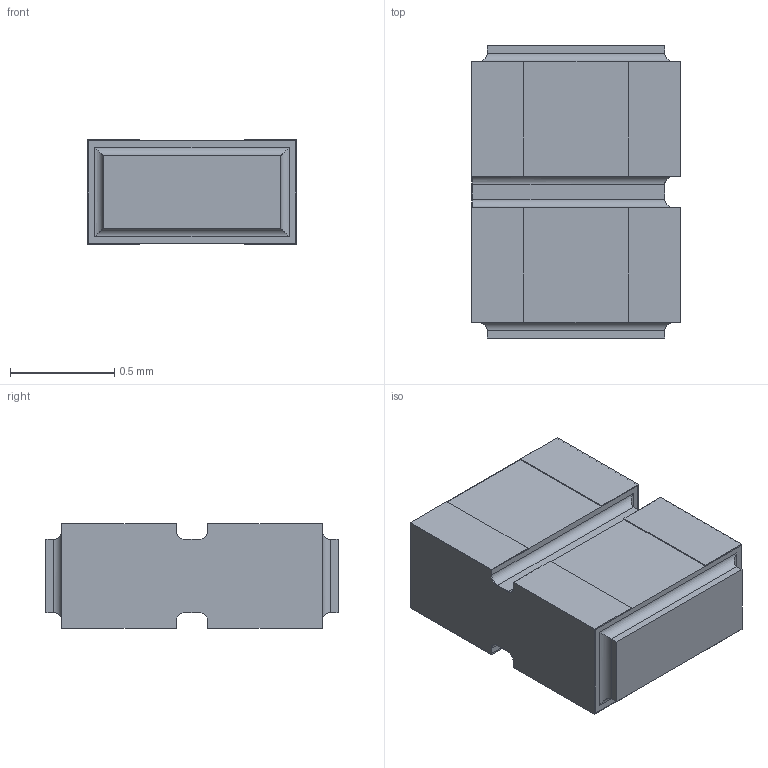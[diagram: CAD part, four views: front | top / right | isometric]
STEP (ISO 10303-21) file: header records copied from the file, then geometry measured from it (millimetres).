
FILE_DESCRIPTION(/* description */ (''),/* implementation_level */ '2;1');
FILE_NAME(/* name */ 'S:\DOCUMENT\AUTOCAD\3D_Modèles\10_3D-pour-VISHAY-COM\PRA\PRA074\PRA074-C2_à_C8\10_IGES\PRA074C2_B-or-N-or-G.stp',/* time_stamp */ '2017-12-19T14:37:33+01:00',/* author */ ('dparmentier'),/* organization */ ('unknown'),/* preprocessor_version */ 'ST-DEVELOPER v17',/* originating_system */ 'Autodesk Inventor 2018',/* authorisation */ '');
FILE_SCHEMA (('AUTOMOTIVE_DESIGN { 1 0 10303 214 3 1 1 }'));
Length unit declared in the file: millimetre
Products named in the file (1): PRA074C2_B-or-N-or-G
Bounding box: 1 x 1.4 x 0.5 mm (x, y, z)
Volume: 0.6 mm3; surface area: 9.7 mm2
Topology: 4 solids, 4 shells, 84 faces, 210 edges, 136 vertices
Faces by surface type: plane 66, cylinder 18
Entity records: 2512 total; most frequent: CARTESIAN_POINT 431, ORIENTED_EDGE 420, DIRECTION 404, EDGE_CURVE 210, LINE 186, VECTOR 186, VERTEX_POINT 136, AXIS2_PLACEMENT_3D 109
